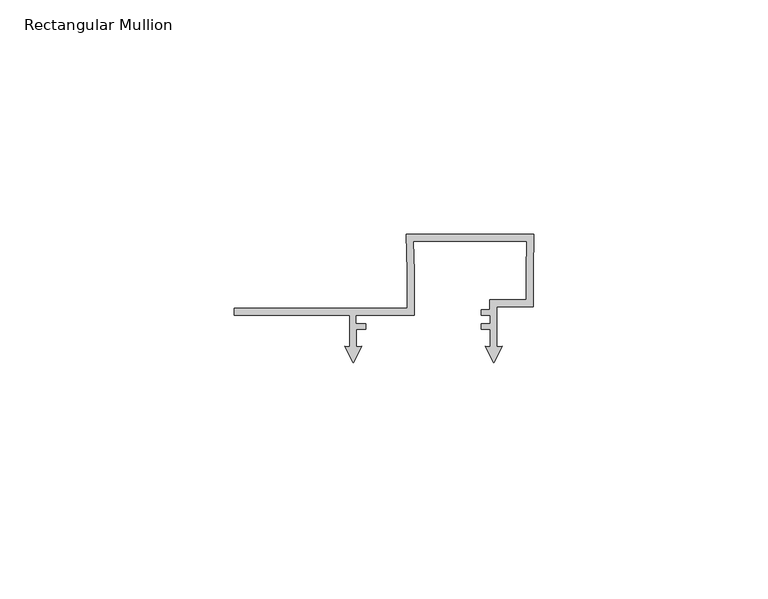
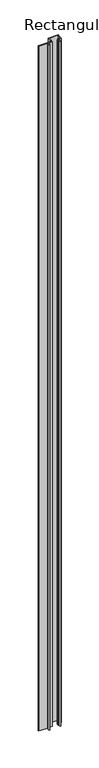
"""IFC4 building model written with IfcOpenShell, lengths in millimetres: member geometry, Rectangular Mullion : Renson_Linarte_LA-B16-01."""

import ifcopenshell
import ifcopenshell.guid

model = None  # the IFC model being written
_history = None  # IfcOwnerHistory: only IFC2X3 demands one
_inside = {}  # id of a spatial element -> (the spatial element, [elements in it])
_under = {}  # id of a project, library or spatial element -> (it, [spatial elements below it])
_declared = {}  # id of a project -> (the project, [libraries it declares])
_typed = {}  # id of a type object -> (the type object, [elements of that type])
_made_of = {}  # id of a material, layer set ... -> (it, [elements and type objects made of it])


def new_model(schema):
    """Start an empty IFC model of exactly this schema.

    Asked for "IFC4X3", IfcOpenShell would pick the latest addendum, in which some entities
    have other attributes; the version numbers below select the first issue.
    IFC2X3 requires an IfcOwnerHistory on every rooted entity: one is made here for all.
    """
    global model, _history
    if schema == "IFC4X3":
        model = ifcopenshell.file(schema_version=(4, 3, 0, 0))
    else:
        model = ifcopenshell.file(schema=schema)
    _inside.clear()
    _under.clear()
    _declared.clear()
    _typed.clear()
    _made_of.clear()
    _history = None
    if model.schema == "IFC2X3":
        org = make("IfcOrganization", Name="unknown")
        user = make(
            "IfcPersonAndOrganization",
            ThePerson=make("IfcPerson", FamilyName="unknown"),
            TheOrganization=org,
        )
        app = make(
            "IfcApplication",
            ApplicationDeveloper=org,
            Version="unknown",
            ApplicationFullName="unknown",
            ApplicationIdentifier="unknown",
        )
        _history = make(
            "IfcOwnerHistory",
            OwningUser=user,
            OwningApplication=app,
            ChangeAction="ADDED",
            CreationDate=0,
        )
    return model


def make(cls, **values):
    """One entity of the class cls with the attributes given. An attribute that is None is left unset."""
    return model.create_entity(
        cls, **{name: value for name, value in values.items() if value is not None}
    )


def rooted(cls, **values):
    """An entity with a GlobalId (a new one), such as an element, a storey or a relation."""
    return make(cls, GlobalId=ifcopenshell.guid.new(), OwnerHistory=_history, **values)


def si_unit(unit_type, name, prefix=None):
    """IfcSIUnit, for example si_unit("LENGTHUNIT", "METRE", prefix="MILLI")."""
    return make("IfcSIUnit", UnitType=unit_type, Prefix=prefix, Name=name)


def assignment(units):
    """IfcUnitAssignment: the units of a project."""
    return None if units is None else make("IfcUnitAssignment", Units=units)


def point(xyz):
    """IfcCartesianPoint."""
    return None if xyz is None else make("IfcCartesianPoint", Coordinates=xyz)


def direction(xyz):
    """IfcDirection."""
    return None if xyz is None else make("IfcDirection", DirectionRatios=xyz)


def frame(location, z_axis=None, x_axis=None):
    """IfcAxis2Placement3D, a coordinate frame: its origin and axes. An axis left out is left unset."""
    return make(
        "IfcAxis2Placement3D",
        Location=point(location),
        Axis=direction(z_axis),
        RefDirection=direction(x_axis),
    )


def origin():
    """The frame at (0, 0, 0) with its axes left unset."""
    return frame((0.0, 0.0, 0.0))


def place(relative_to, where):
    """IfcLocalPlacement: puts the frame where relative to a parent placement (None: the world)."""
    return make(
        "IfcLocalPlacement", PlacementRelTo=relative_to, RelativePlacement=where
    )


def context(
    kind, dimensions, precision=None, world=None, true_north=None, identifier=None
):
    """IfcGeometricRepresentationContext, for example the 3D "Model" context."""
    return make(
        "IfcGeometricRepresentationContext",
        ContextIdentifier=identifier,
        ContextType=kind,
        CoordinateSpaceDimension=dimensions,
        Precision=precision,
        WorldCoordinateSystem=world,
        TrueNorth=true_north,
    )


def project(units=None, contexts=None):
    """IfcProject with its units and contexts."""
    return rooted(
        "IfcProject",
        Name="project",
        RepresentationContexts=contexts,
        UnitsInContext=assignment(units),
    )


def spatial(cls, under=None, at=None, **own):
    """A site, building, storey or space (cls), placed at a placement, below another one or the project."""
    s = rooted(cls, ObjectPlacement=at, **own)
    if under is not None:
        _under.setdefault(under.id(), (under, []))[1].append(s)
    return s


def polyline(points):
    """IfcPolyline through the points."""
    return make("IfcPolyline", Points=[point(p) for p in points])


def outline(outer, holes=None, kind="AREA"):
    """IfcArbitraryClosedProfileDef: a profile drawn as a closed curve; with holes, ...WithVoids."""
    if holes is None:
        return make("IfcArbitraryClosedProfileDef", ProfileType=kind, OuterCurve=outer)
    return make(
        "IfcArbitraryProfileDefWithVoids",
        ProfileType=kind,
        OuterCurve=outer,
        InnerCurves=holes,
    )


def extrude(swept, where, along, depth):
    """IfcExtrudedAreaSolid: the profile swept, set in the frame where, extruded along a direction by depth."""
    return make(
        "IfcExtrudedAreaSolid",
        SweptArea=swept,
        Position=where,
        ExtrudedDirection=direction(along),
        Depth=depth,
    )


def shape(context_of_items, identifier, shape_type, items):
    """IfcShapeRepresentation: the items that make up one representation, for example the "Body"."""
    return make(
        "IfcShapeRepresentation",
        ContextOfItems=context_of_items,
        RepresentationIdentifier=identifier,
        RepresentationType=shape_type,
        Items=items,
    )


def source(mapping_origin, context_of_items, identifier, shape_type, items):
    """IfcRepresentationMap: a shape defined once, which mapped items show again and again."""
    return make(
        "IfcRepresentationMap",
        MappingOrigin=mapping_origin,
        MappedRepresentation=shape(context_of_items, identifier, shape_type, items),
    )


def transform(
    local_origin,
    x_axis=None,
    y_axis=None,
    z_axis=None,
    scale=None,
    scale2=None,
    scale3=None,
    uniform=True,
):
    """IfcCartesianTransformationOperator3D, or its non-uniform kind. x_axis, y_axis, z_axis: its Axis1, 2, 3."""
    if uniform:
        return make(
            "IfcCartesianTransformationOperator3D",
            Axis1=direction(x_axis),
            Axis2=direction(y_axis),
            LocalOrigin=point(local_origin),
            Scale=scale,
            Axis3=direction(z_axis),
        )
    return make(
        "IfcCartesianTransformationOperator3DnonUniform",
        Axis1=direction(x_axis),
        Axis2=direction(y_axis),
        LocalOrigin=point(local_origin),
        Scale=scale,
        Axis3=direction(z_axis),
        Scale2=scale2,
        Scale3=scale3,
    )


def mapped(mapping_source, mapping_target):
    """IfcMappedItem: shows the shape of a source again, moved by a transform."""
    return make(
        "IfcMappedItem", MappingSource=mapping_source, MappingTarget=mapping_target
    )


def made_of(thing, what):
    """Note that an element or type object is made of a material, layer set ...; save() writes the relation."""
    if what is not None:
        _made_of.setdefault(what.id(), (what, []))[1].append(thing)
    return thing


def element(
    cls,
    number,
    at=None,
    inside=None,
    cuts=None,
    type_object=None,
    material=None,
    context=None,
    identifier="Body",
    shape_type=None,
    held_by="IfcProductDefinitionShape",
    body=None,
    shapes=None,
    **own,
):
    """One element of the class cls, such as IfcWall. Its Tag is "e" and its number.

    at: its placement. inside: the storey or other place that contains it. cuts: it is an
    opening in that element (IfcRelVoidsElement). A single representation is given by context,
    identifier, shape_type and body (its items); several are given by shapes. held_by: the class
    of the entity that holds the representations. save() writes the other relations.
    """
    e = rooted(cls, Tag="e%d" % number, ObjectPlacement=at, **own)
    if body is not None:
        shapes = [shape(context, identifier, shape_type, body)]
    if shapes is not None:
        e.Representation = make(held_by, Representations=shapes)
    if inside is not None:
        _inside.setdefault(inside.id(), (inside, []))[1].append(e)
    if cuts is not None:
        rooted(
            "IfcRelVoidsElement", RelatingBuildingElement=cuts, RelatedOpeningElement=e
        )
    if type_object is not None:
        _typed.setdefault(type_object.id(), (type_object, []))[1].append(e)
    return made_of(e, material)


def aggregate(whole, parts):
    """IfcRelAggregates: a whole, such as a stair, and the parts it consists of."""
    return rooted("IfcRelAggregates", RelatingObject=whole, RelatedObjects=parts)


def save(model, path):
    """Write the relations noted so far, then the file.

    IfcRelAggregates (storeys below a building ...), IfcRelContainedInSpatialStructure (elements
    in a storey), IfcRelDefinesByType, IfcRelAssociatesMaterial and IfcRelDeclares: one each for
    every whole, place, type object, material and project.
    """
    for whole, parts in _under.values():
        aggregate(whole, parts)
    for where, things in _inside.values():
        rooted(
            "IfcRelContainedInSpatialStructure",
            RelatedElements=things,
            RelatingStructure=where,
        )
    for kind, things in _typed.values():
        rooted("IfcRelDefinesByType", RelatedObjects=things, RelatingType=kind)
    for what, things in _made_of.values():
        rooted("IfcRelAssociatesMaterial", RelatedObjects=things, RelatingMaterial=what)
    for by, libraries in _declared.values():
        rooted("IfcRelDeclares", RelatingContext=by, RelatedDefinitions=libraries)
    model.write(path)


def rectangular_mullion_807a867e(model_context):
    return source(origin(), model_context, "Body", "SweptSolid", [
        extrude(outline(polyline([(0.0, 84.1000001), (-0.1443272, 76.0977912), (-0.1443272, 68.5995654), (-7.9351461, 68.5995654), (-7.9351461, 60.0038205), (-6.8194096, 60.1014348), (-8.6351462, 56.5378474), (-10.4508827, 60.1014348), (-9.3351463, 60.0038206), (-9.3351463, 63.698351), (-11.3227094, 63.698351), (-11.3227094, 64.9004386), (-9.344327, 64.9004386), (-9.344327, 66.6999954), (-11.3232242, 66.6999954), (-11.3232242, 67.9015214), (-9.4446143, 67.9015214), (-9.4446143, 70.0997951), (-1.6351472, 70.0997951), (-1.6351135, 76.1153631), (-1.5181226, 82.5999998), (-25.7521689, 82.5999998), (-25.6351455, 76.1117002), (-25.6351455, 66.6999997), (-38.0351451, 66.6999997), (-38.0351451, 64.9008281), (-35.942882, 64.9008281), (-35.942882, 63.6999997), (-37.9351461, 63.6999997), (-37.9351461, 60.0038204), (-36.8194083, 60.1014348), (-38.635145, 56.5378474), (-40.4508816, 60.1014348), (-39.3351463, 60.0038207), (-39.3351463, 66.7056679), (-64.1, 66.7056679), (-64.1, 68.2004291), (-27.1353052, 68.2004291), (-27.1352165, 76.1039069), (-27.279476, 84.1000001), (0.0, 84.1000001)])), frame((0.0, 0.0, -2000.0), z_axis=(0.0, 0.0, 1.0), x_axis=(1.0, 0.0, 0.0)), (0.0, 0.0, 1.0), 2000.0),
    ])


if __name__ == "__main__":
    model = new_model("IFC4")
    model_context = context("Model", 3, world=origin())
    ifc_project = project(units=[si_unit("LENGTHUNIT", "METRE", prefix="MILLI")], contexts=[model_context])
    site = spatial("IfcSite", under=ifc_project)
    building = spatial("IfcBuilding", under=site)
    placement = place(None, origin())
    rectangular_mullion_shape = rectangular_mullion_807a867e(model_context)
    element("IfcMember", 1, ObjectType="Rectangular Mullion : Renson_Linarte_LA-B16-01", at=placement, inside=building, context=model_context, shape_type="MappedRepresentation", body=[
        mapped(rectangular_mullion_shape, transform((0.0, 0.0, 0.0), x_axis=(1.0, 0.0, 0.0), y_axis=(0.0, 1.0, 0.0), z_axis=(0.0, 0.0, 1.0))),
    ])
    save(model, "model.ifc")
